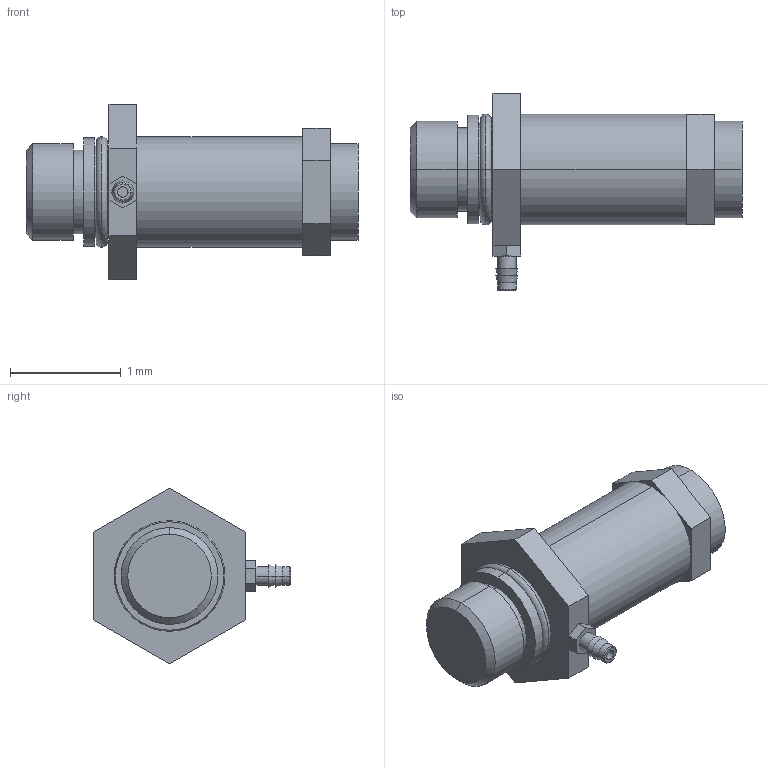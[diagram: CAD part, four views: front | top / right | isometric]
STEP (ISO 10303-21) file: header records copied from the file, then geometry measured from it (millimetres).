
FILE_DESCRIPTION((''),'2;1');
FILE_NAME('UF2.stp','2017-11-07T11:24:44',(''),(''),'Mechanical Desktop 2011','Mechanical Desktop 2011',', , ');
FILE_SCHEMA(('CONFIG_CONTROL_DESIGN'));
Length unit declared in the file: millimetre
Products named in the file (1): Product
Bounding box: 3 x 1.78 x 1.59 mm (x, y, z)
Volume: 2.4 mm3; surface area: 19.3 mm2
Topology: 6 solids, 6 shells, 65 faces, 134 edges, 86 vertices
Faces by surface type: plane 35, cylinder 18, cone 6, torus 6
Entity records: 1817 total; most frequent: DIRECTION 322, CARTESIAN_POINT 286, ORIENTED_EDGE 268, EDGE_CURVE 134, AXIS2_PLACEMENT_3D 122, VERTEX_POINT 86, VECTOR 78, LINE 78
